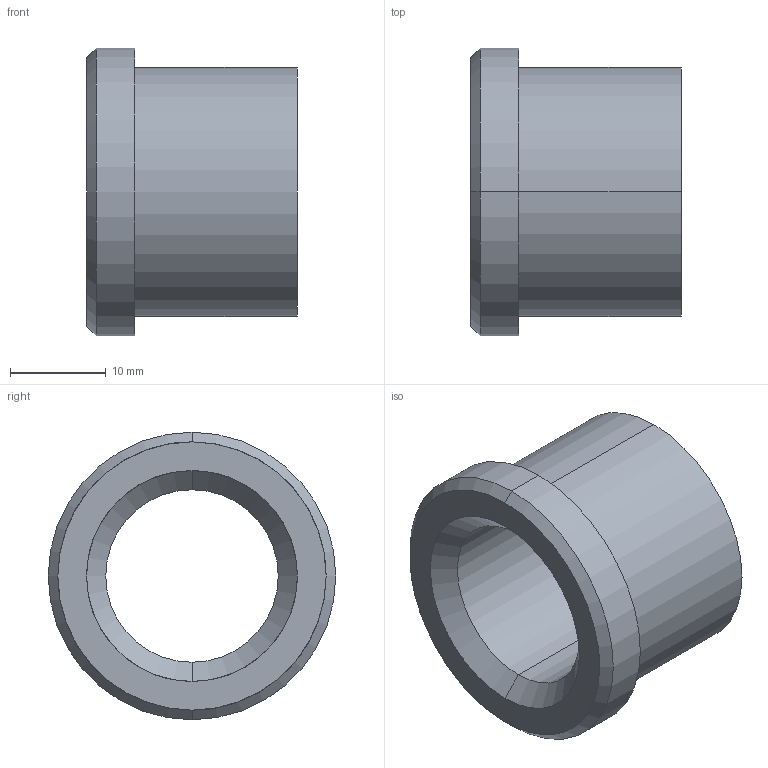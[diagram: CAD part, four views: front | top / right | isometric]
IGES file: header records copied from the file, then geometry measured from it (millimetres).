
Start section: START RECORD GO HERE.
Global section: file name: 353-18X22.igs; native system: DASSAULT SYSTEMES CATIA V5 R20 - www.3ds.com; preprocessor: CATIA Version 5 Release 20 ; author: Utente; organization: NB04-ASUS; date: 20210508.104506; units: millimetre
Bounding box: 22 x 30 x 30 mm (x, y, z)
Surface area: 3855.7 mm2 (no closed solid volume)
Topology: 0 solids, 0 shells, 15 faces, 96 edges, 96 vertices
Faces by surface type: revolution 12, plane 3
